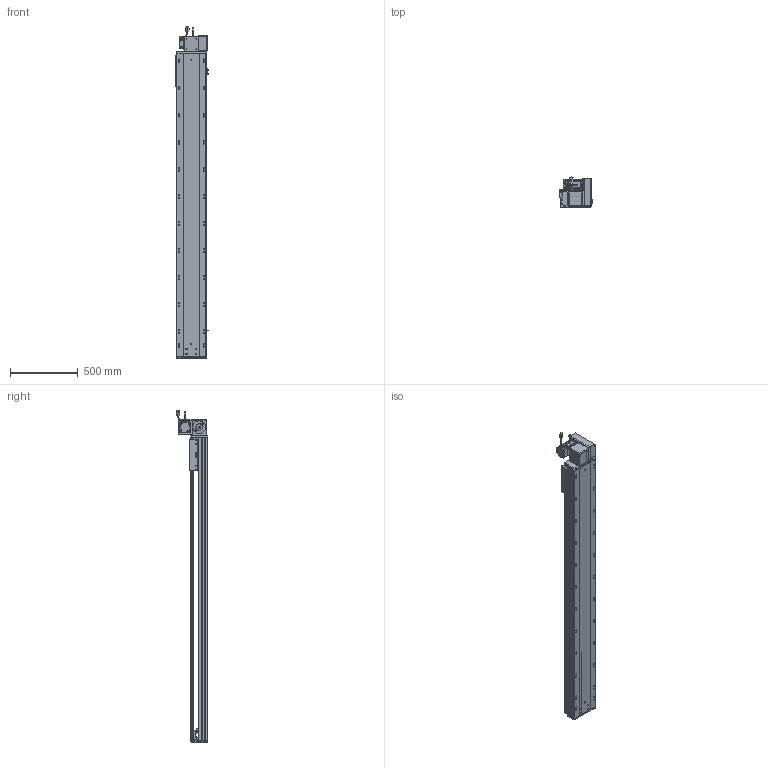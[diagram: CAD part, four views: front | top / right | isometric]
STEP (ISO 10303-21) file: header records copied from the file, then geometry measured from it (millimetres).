
FILE_DESCRIPTION (( 'STEP AP203' ), '1' );
FILE_NAME ('RY220-T-300-UR.SLDASM_1900.step', '2022-07-25T08:44:34', ( '' ), ( '' ), 'SwSTEP 2.0', 'SolidWorks 2016', '' );
FILE_SCHEMA (( 'CONFIG_CONTROL_DESIGN' ));
Length unit declared in the file: millimetre
Products named in the file (14): 110A-T-肮祭謫釱傷裔; RY220-T-300-UR.SLDASM_1900; RY220-T-湍謫欶(鍼踢); 怢湛750W_ECMA-CX0807ES; RY220翋肮祭謫釱; RY220-同步轮副支撑座6304×2; RY220-俋离672覜茼んえ; RY220翋肮祭謫裔啣; RY220圉猾敕々湍臏賑輸; RY220-T菁釱-300_1900; 覜茼ん672; RY220-T-300-奻裔啣_1900; RY220-T-蛌殏萇儂假蚾啣(750W); 滅袉蝶18-15
Assembly tree (18 placements, depth 2):
  RY220-T-300-UR.SLDASM_1900
    RY220-T菁釱-300_1900
    RY220翋肮祭謫釱
    覜茼ん672  x3
    RY220圉猾敕々湍臏賑輸
    RY220-T-300-奻裔啣_1900
    RY220-俋离672覜茼んえ
    滅袉蝶18-15  x3
    RY220翋肮祭謫裔啣  x2
    110A-T-肮祭謫釱傷裔
    怢湛750W_ECMA-CX0807ES
    RY220-T-湍謫欶(鍼踢)
    RY220-T-蛌殏萇儂假蚾啣(750W)
    RY220-同步轮副支撑座6304×2
Bounding box: 238.7 x 231.74 x 2453.27 mm (x, y, z)
Volume: 18082878 mm3; surface area: 5479254.7 mm2
Topology: 19 solids, 19 shells, 2814 faces, 7775 edges, 4900 vertices
Faces by surface type: cylinder 1354, plane 1069, cone 309, bspline 56, sphere 16, torus 10
Entity records: 93747 total; most frequent: CARTESIAN_POINT 26593, ORIENTED_EDGE 13914, DIRECTION 13296, EDGE_CURVE 6957, AXIS2_PLACEMENT_3D 4752, VERTEX_POINT 4524, VECTOR 3792, LINE 3792
